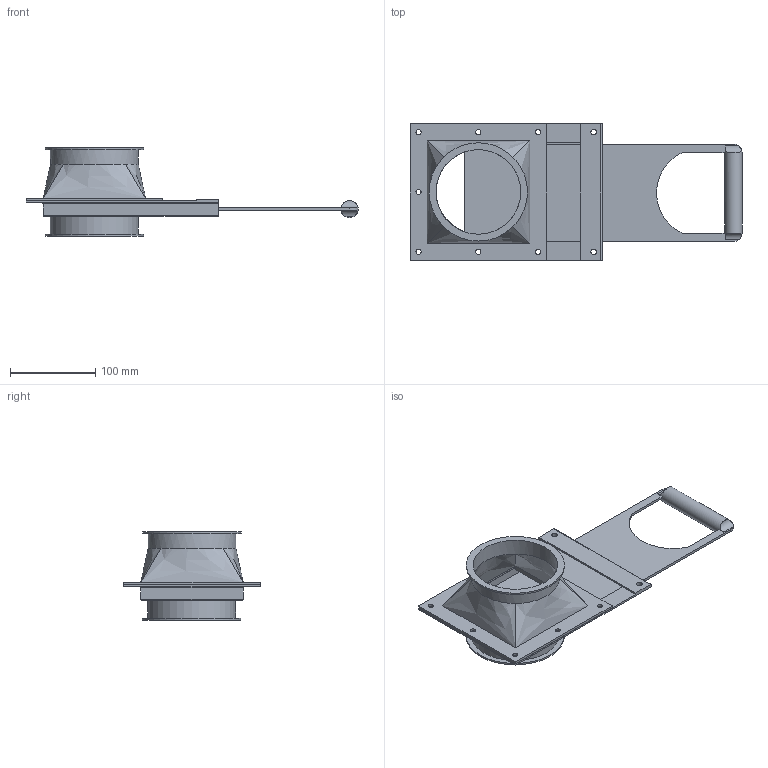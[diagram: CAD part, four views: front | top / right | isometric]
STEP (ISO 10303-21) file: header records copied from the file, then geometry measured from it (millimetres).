
FILE_DESCRIPTION((''),'2;1');
FILE_NAME('U:\Wolfgang\Marcel-3D\fertig\Kapitel 9\1021080.stp','2011-10-11T12:57:41',('iwienholt'),(''),'Autodesk Inventor 2010','Autodesk Inventor 2010','');
FILE_SCHEMA(('AUTOMOTIVE_DESIGN { 1 0 10303 214 1 1 1 1 }'));
Length unit declared in the file: millimetre
Products named in the file (4): 1021080; DN100-1; DN100-2; Schieberplatte DN100
Assembly tree (3 placements, depth 2):
  1021080
    DN100-1
    DN100-2
    Schieberplatte DN100
Bounding box: 388.5 x 160 x 103 mm (x, y, z)
Volume: 306614.2 mm3; surface area: 250325.9 mm2
Topology: 3 solids, 3 shells, 107 faces, 298 edges, 199 vertices
Faces by surface type: plane 59, bspline 25, cylinder 23
Full cylindrical faces by diameter (mm): 6 x1, 20 x1, 99 x2, 103 x3, 115 x2
Entity records: 4132 total; most frequent: CARTESIAN_POINT 1439, ORIENTED_EDGE 522, DIRECTION 493, EDGE_CURVE 261, VERTEX_POINT 188, EDGE_LOOP 177, AXIS2_PLACEMENT_3D 176, VECTOR 141
